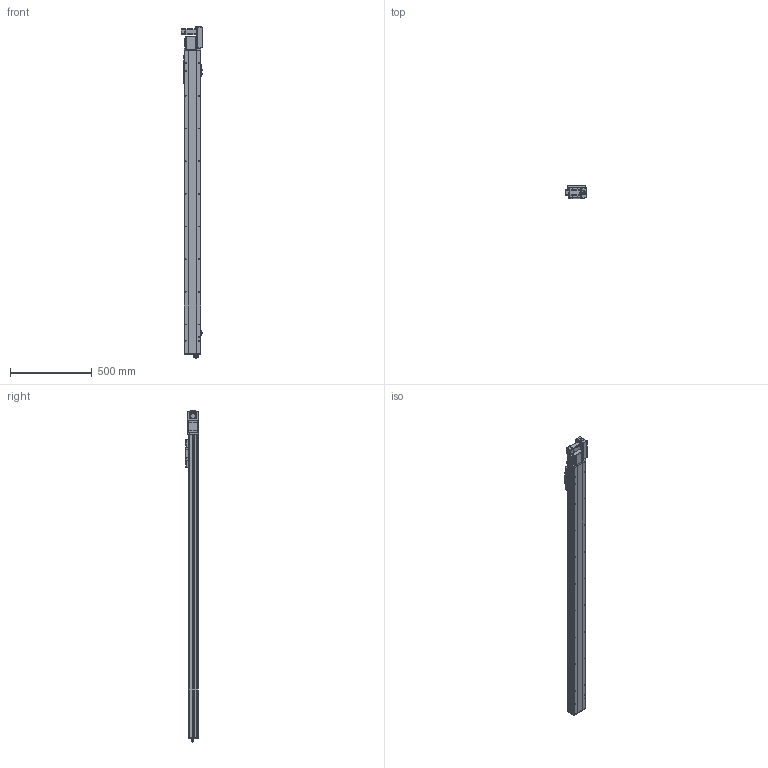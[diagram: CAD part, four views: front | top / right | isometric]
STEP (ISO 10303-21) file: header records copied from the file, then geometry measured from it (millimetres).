
FILE_DESCRIPTION (( 'STEP AP214' ), '1' );
FILE_NAME ('TPE10-L32-1600-R-T10-C4.STEP', '2023-03-13T07:58:24', ( '' ), ( '' ), 'SwSTEP 2.0', 'SolidWorks 2020', '' );
FILE_SCHEMA (( 'AUTOMOTIVE_DESIGN' ));
Length unit declared in the file: millimetre
Products named in the file (15): hex nuts, style 1-grades ab gb_GB_FASTENER_NUT_SNAB1 M3-N; 葩璃 TPF10 詩湍揤啣 TPF10 12^TPE10-L32-R-T10-C4; 葩璃 pm-t65-672^TPE10-L32-R-T10-C4; 葩璃 TPE10-L-001 菁釱MZ-102A-01^TPE10-L32-R-T10-C4; 葩璃 詩湍75^TPE10-L32-R-T10-C4; 葩璃 TPT10-L-009 萇儂啣^TPE10-L32-R-T10-C4_100W; 葩璃 TPE10 賑雄殤 TPE10^TPE10-L32-R-T10-C4; 葩璃 TPE10-007 々湍釱MZ-169x88^TPE10-L32-R-T10-C4; 葩璃 TPF10-L-008 耜醱啣^TPE10-L32-R-T10-C4; hexagon socket head cap screws gb_GB_FASTENER_SCREWS_HSHCS M3X6-N; TPE10-L32-1600-R-T10-C4; hexagon head bolts-full thread gb_GB_FASTENER_BOLT_STBAB A M5X16-N; 葩璃 TPE10-L-002 耜裔ZTMT-102B-04^TPE10-L32-R-T10-C4; 葩璃 侂狟100W^TPE10-L32-R-T10-C4; 葩璃 PL8-02^TPE10-L32-R-T10-C4
Assembly tree (28 placements, depth 2):
  TPE10-L32-1600-R-T10-C4
    葩璃 TPE10-L-001 菁釱MZ-102A-01^TPE10-L32-R-T10-C4
    葩璃 TPE10-L-002 耜裔ZTMT-102B-04^TPE10-L32-R-T10-C4  x2
    葩璃 詩湍75^TPE10-L32-R-T10-C4
    葩璃 TPE10-007 々湍釱MZ-169x88^TPE10-L32-R-T10-C4
    葩璃 TPF10-L-008 耜醱啣^TPE10-L32-R-T10-C4
    葩璃 TPE10 賑雄殤 TPE10^TPE10-L32-R-T10-C4
    葩璃 TPF10 詩湍揤啣 TPF10 12^TPE10-L32-R-T10-C4  x2
    葩璃 TPT10-L-009 萇儂啣^TPE10-L32-R-T10-C4_100W
    葩璃 pm-t65-672^TPE10-L32-R-T10-C4  x3
    葩璃 PL8-02^TPE10-L32-R-T10-C4
    葩璃 侂狟100W^TPE10-L32-R-T10-C4
    hexagon socket head cap screws gb_GB_FASTENER_SCREWS_HSHCS M3X6-N  x6
    hex nuts, style 1-grades ab gb_GB_FASTENER_NUT_SNAB1 M3-N  x6
    hexagon head bolts-full thread gb_GB_FASTENER_BOLT_STBAB A M5X16-N
Bounding box: 134.23 x 78.5 x 2032 mm (x, y, z)
Volume: 6023619.6 mm3; surface area: 1529364.8 mm2
Topology: 36 solids, 36 shells, 1644 faces, 4186 edges, 2634 vertices
Faces by surface type: plane 899, cylinder 501, cone 192, torus 26, bspline 24, sphere 2
Entity records: 38516 total; most frequent: CARTESIAN_POINT 7987, DIRECTION 6036, ORIENTED_EDGE 5808, EDGE_CURVE 2904, AXIS2_PLACEMENT_3D 2133, VERTEX_POINT 1861, VECTOR 1770, LINE 1770
